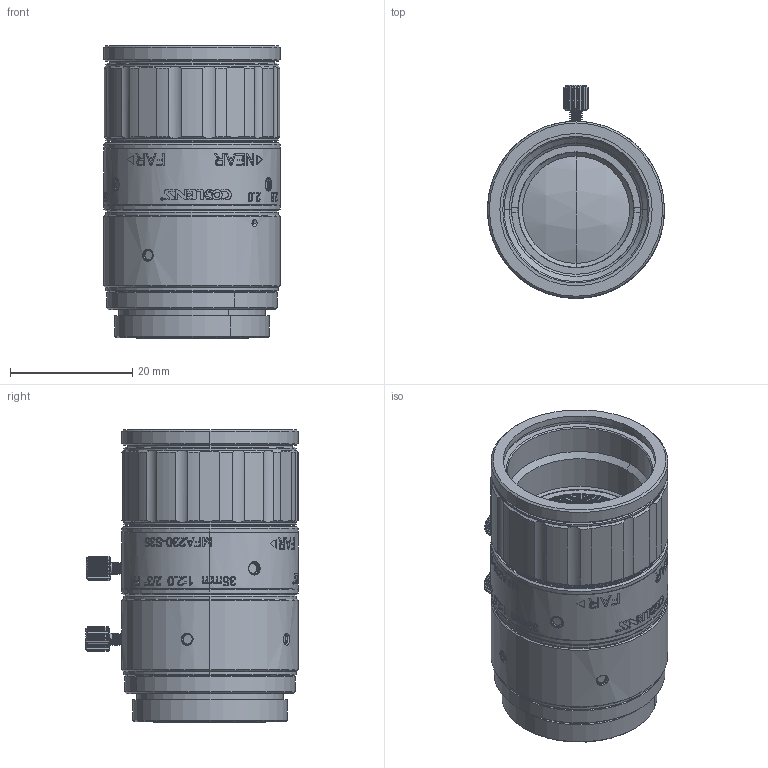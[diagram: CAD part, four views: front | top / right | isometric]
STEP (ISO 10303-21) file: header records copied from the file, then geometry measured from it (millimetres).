
FILE_DESCRIPTION (( 'STEP AP203' ), '1' );
FILE_NAME ('MFA230-S35.STEP', '2020-12-01T07:19:10', ( '' ), ( '' ), 'SwSTEP 2.0', 'SolidWorks 2017', '' );
FILE_SCHEMA (( 'CONFIG_CONTROL_DESIGN' ));
Length unit declared in the file: millimetre
Products named in the file (9): MFA230-S35.sldasm-Part-7; MFA230-S35.sldasm-Part-4; MFA230-S35.sldasm-Part-2; MFA230-S35.sldasm-Part-3; MFA230-S35.sldasm-Part-1; MFA230-S35.sldasm-Part-6; MFA230-S35.sldasm-Part-5; MFA230-S35.sldasm-Part-8; MFA230-S35
Assembly tree (8 placements, depth 2):
  MFA230-S35
    MFA230-S35.sldasm-Part-1
    MFA230-S35.sldasm-Part-2
    MFA230-S35.sldasm-Part-3
    MFA230-S35.sldasm-Part-4
    MFA230-S35.sldasm-Part-5
    MFA230-S35.sldasm-Part-6
    MFA230-S35.sldasm-Part-7
    MFA230-S35.sldasm-Part-8
Bounding box: 29 x 34.9 x 47.97 mm (x, y, z)
Volume: 23752.7 mm3; surface area: 11056.9 mm2
Topology: 8 solids, 11 shells, 5592 faces, 16126 edges, 10678 vertices
Faces by surface type: plane 4696, cylinder 503, cone 197, bspline 171, torus 17, sphere 8
Entity records: 286303 total; most frequent: CARTESIAN_POINT 162117, ORIENTED_EDGE 32252, DIRECTION 17376, EDGE_CURVE 16126, VERTEX_POINT 10678, B_SPLINE_CURVE_WITH_KNOTS 7719, AXIS2_PLACEMENT_3D 6439, EDGE_LOOP 5726
